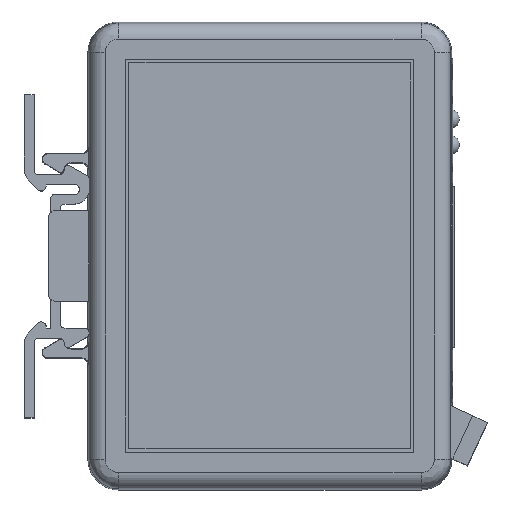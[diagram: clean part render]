
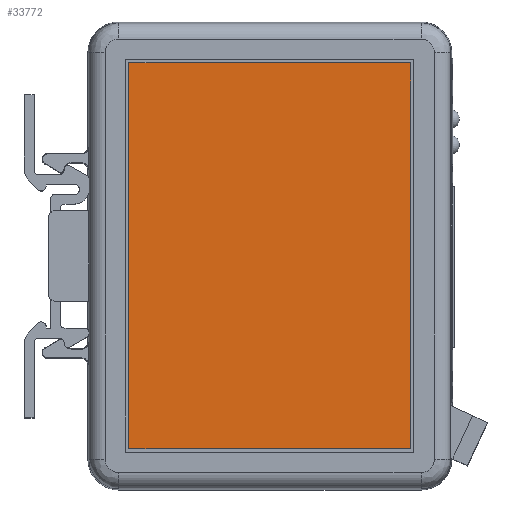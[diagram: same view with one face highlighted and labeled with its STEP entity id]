
A CAD part, top view. The second image highlights one B-rep face of the part: STEP entity #33772.
In plain terms, the highlighted planar face has unit normal (0, 0, 1).
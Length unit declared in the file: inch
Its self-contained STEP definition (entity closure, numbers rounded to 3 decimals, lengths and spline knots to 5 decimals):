
#268 = EDGE_CURVE ( 'NONE', #18173, #13918, #51371, .T. ) ;
#1685 = FACE_OUTER_BOUND ( 'NONE', #29476, .T. ) ;
#1689 = AXIS2_PLACEMENT_3D ( 'NONE', #26943, #7781, #35657 ) ;
#1719 = EDGE_CURVE ( 'NONE', #28238, #50079, #36995, .T. ) ;
#1981 = DIRECTION ( 'NONE',  ( 0., -1., 0. ) ) ;
#3331 = CARTESIAN_POINT ( 'NONE',  ( 3.111, -4.116, 1.26 ) ) ;
#4747 = LINE ( 'NONE', #34049, #45905 ) ;
#6297 = ORIENTED_EDGE ( 'NONE', *, *, #33954, .F. ) ;
#7781 = DIRECTION ( 'NONE',  ( 0., 0., -1. ) ) ;
#9133 = CARTESIAN_POINT ( 'NONE',  ( 3.111, -4.116, 1.26 ) ) ;
#10529 = DIRECTION ( 'NONE',  ( 0., 1., 0. ) ) ;
#13918 = VERTEX_POINT ( 'NONE', #20519 ) ;
#14535 = VECTOR ( 'NONE', #36114, 39.37008 ) ;
#15559 = CARTESIAN_POINT ( 'NONE',  ( 0.395, -0.396, 1.26 ) ) ;
#18173 = VERTEX_POINT ( 'NONE', #29555 ) ;
#19127 = LINE ( 'NONE', #33891, #39133 ) ;
#20519 = CARTESIAN_POINT ( 'NONE',  ( 3.111, -0.396, 1.26 ) ) ;
#25529 = EDGE_CURVE ( 'NONE', #50079, #18173, #4747, .T. ) ;
#26219 = ORIENTED_EDGE ( 'NONE', *, *, #25529, .F. ) ;
#26943 = CARTESIAN_POINT ( 'NONE',  ( 0.395, -0.396, 1.26 ) ) ;
#28238 = VERTEX_POINT ( 'NONE', #9133 ) ;
#29476 = EDGE_LOOP ( 'NONE', ( #26219, #43264, #6297, #43819 ) ) ;
#29555 = CARTESIAN_POINT ( 'NONE',  ( 0.395, -0.396, 1.26 ) ) ;
#31616 = PLANE ( 'NONE',  #1689 ) ;
#33772 = ADVANCED_FACE ( 'NONE', ( #1685 ), #31616, .F. ) ;
#33891 = CARTESIAN_POINT ( 'NONE',  ( 3.111, -0.396, 1.26 ) ) ;
#33954 = EDGE_CURVE ( 'NONE', #13918, #28238, #19127, .T. ) ;
#34049 = CARTESIAN_POINT ( 'NONE',  ( 0.395, -4.116, 1.26 ) ) ;
#35657 = DIRECTION ( 'NONE',  ( 1., 0., 0. ) ) ;
#36114 = DIRECTION ( 'NONE',  ( -1., 0., 0. ) ) ;
#36995 = LINE ( 'NONE', #3331, #14535 ) ;
#37780 = CARTESIAN_POINT ( 'NONE',  ( 0.395, -4.116, 1.26 ) ) ;
#39133 = VECTOR ( 'NONE', #1981, 39.37008 ) ;
#39597 = VECTOR ( 'NONE', #47692, 39.37008 ) ;
#43264 = ORIENTED_EDGE ( 'NONE', *, *, #1719, .F. ) ;
#43819 = ORIENTED_EDGE ( 'NONE', *, *, #268, .F. ) ;
#45905 = VECTOR ( 'NONE', #10529, 39.37008 ) ;
#47692 = DIRECTION ( 'NONE',  ( 1., 0., 0. ) ) ;
#50079 = VERTEX_POINT ( 'NONE', #37780 ) ;
#51371 = LINE ( 'NONE', #15559, #39597 ) ;
